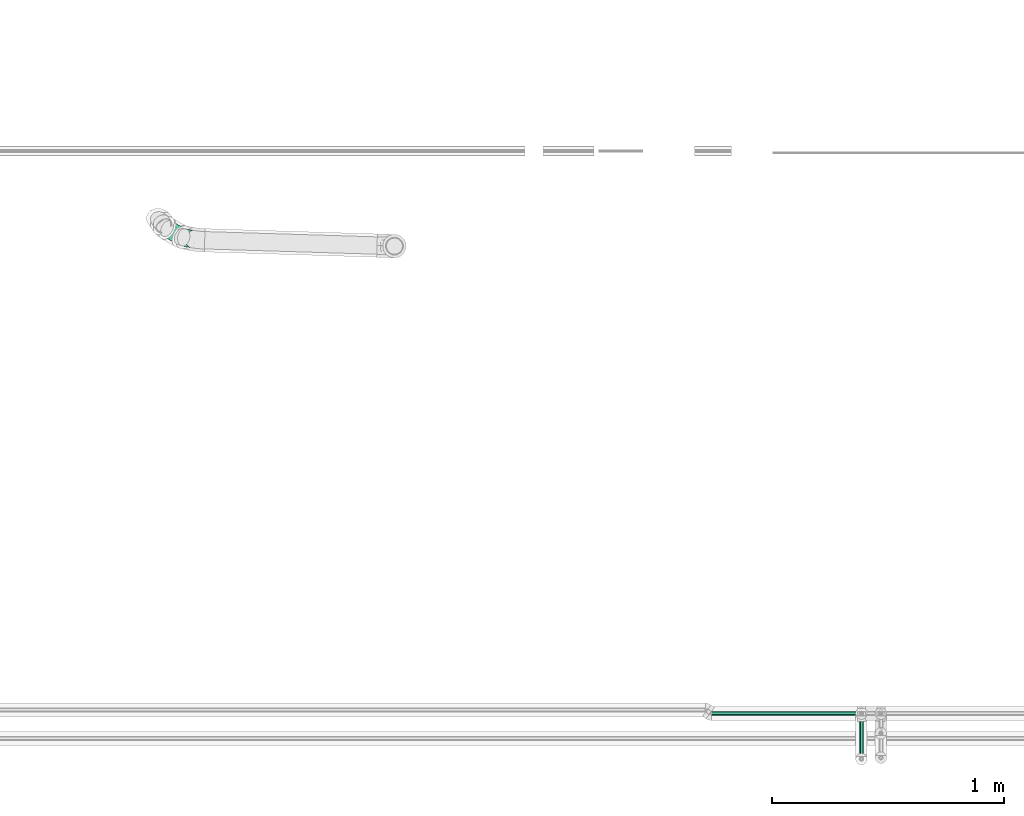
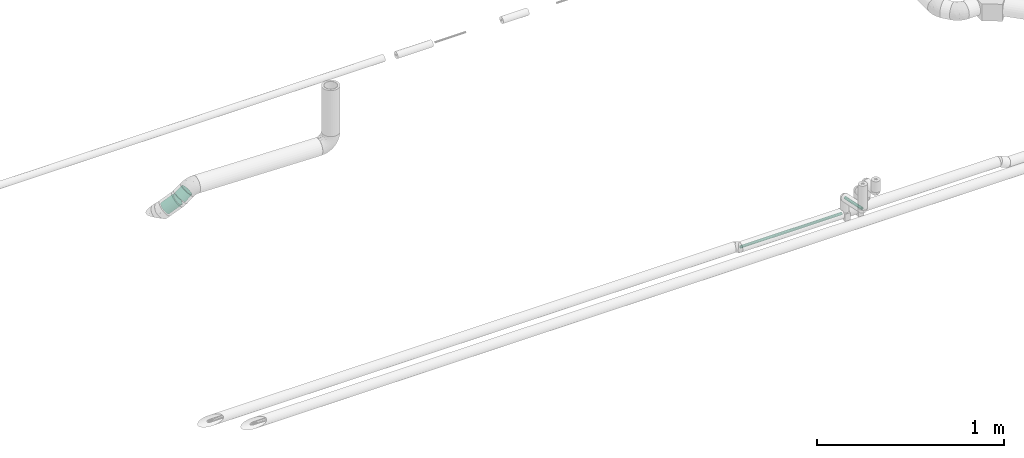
# One storey, part 69 of 156: 4 flow segments.
"""IFC2X3 building model written with IfcOpenShell, lengths in millimetres."""

from ifc_helpers import new_model, entity, si_unit, converted_unit, derived_unit, direction, frame, origin_with_axes, origin_2d_with_axis, place, context, subcontext, project, spatial, hollow_circle, extrude, source, transform, mapped, type_object, element, save


model = new_model("IFC2X3")

# Units and contexts
model_context = context("Model", 3, precision=0.01, world=frame((0.0, 4.29681676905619e-09, 0.0)), true_north=direction((4.01073788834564e-13, 1.0)))
plan_context = context("Plan", 3, precision=0.01, world=frame((0.0, 4.29681676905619e-09, 0.0)), true_north=direction((4.01073788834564e-13, 1.0)))
body_context = subcontext(model_context, "Body", "Model", "MODEL_VIEW")
ifc_project = project(units=[converted_unit("PLANEANGLEUNIT", "DEGREE", entity("IfcPositiveLengthMeasure", 0.0174532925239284), si_unit("PLANEANGLEUNIT", "RADIAN"), dimensions=[0, 0, 0, 0, 0, 0, 0]), si_unit("AREAUNIT", "SQUARE_METRE"), si_unit("LENGTHUNIT", "METRE", prefix="MILLI"), si_unit("MASSUNIT", "GRAM", prefix="KILO"), si_unit("POWERUNIT", "WATT"), si_unit("PRESSUREUNIT", "PASCAL", prefix="KILO"), si_unit("FORCEUNIT", "NEWTON", prefix="KILO"), si_unit("ELECTRICVOLTAGEUNIT", "VOLT"), si_unit("ELECTRICCURRENTUNIT", "AMPERE"), si_unit("THERMODYNAMICTEMPERATUREUNIT", "DEGREE_CELSIUS"), si_unit("TIMEUNIT", "SECOND"), si_unit("VOLUMEUNIT", "CUBIC_METRE"), derived_unit("LINEARVELOCITYUNIT", [(si_unit("LENGTHUNIT", "METRE"), 1), (si_unit("TIMEUNIT", "SECOND"), -1)]), derived_unit("VOLUMETRICFLOWRATEUNIT", [(si_unit("VOLUMEUNIT", "CUBIC_METRE"), 1), (si_unit("TIMEUNIT", "SECOND"), -1)]), derived_unit("THERMALTRANSMITTANCEUNIT", [(si_unit("POWERUNIT", "WATT"), 1), (si_unit("THERMODYNAMICTEMPERATUREUNIT", "KELVIN"), -1), (si_unit("AREAUNIT", "SQUARE_METRE"), -1)]), derived_unit("SOUNDPRESSUREUNIT", [(si_unit("PRESSUREUNIT", "PASCAL"), 1)])], contexts=[model_context, plan_context])

# Site, building, storey
site_placement = place(None, frame((0.0, -4.29681676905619e-09, 0.0), z_axis=(0.0, 0.0, 1.0), x_axis=(1.0, 0.0, 0.0)))
site = spatial("IfcSite", under=ifc_project, at=site_placement, CompositionType="ELEMENT")
building_placement = place(site_placement, frame((0.0, 4.29681676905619e-09, 0.0), z_axis=(0.0, 0.0, 1.0), x_axis=(1.0, 0.0, 0.0)))
building = spatial("IfcBuilding", under=site, at=building_placement, Name="mc-building", CompositionType="ELEMENT")
storey_placement = place(building_placement, frame((0.0, 0.0, 205200.0), z_axis=(0.0, 0.0, 1.0), x_axis=(1.0, 0.0, 0.0)))
storey = spatial("IfcBuildingStorey", under=building, at=storey_placement, Name="Nivå D + 1,2 m", CompositionType="ELEMENT", Elevation=205200.0)

# Flow segments
pipe_segment_type_1 = type_object("IfcPipeSegmentType", Name="MA", PredefinedType="RIGIDSEGMENT")
shared_shape_1 = source(origin_with_axes(), body_context, "Body", "SweptSolid", [
    extrude(hollow_circle(Radius=37.5, WallThickness=2.0, at=origin_2d_with_axis()), frame((0.0, 0.0, 0.0), z_axis=(1.0, 0.0, 0.0), x_axis=(0.0, 1.0, 0.0)), (0.0, 0.0, 1.0), 89.4),
])
flow_segment_1_placement = place(storey_placement, frame((333995.38592, 461091.15942, 4095.23874999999), z_axis=(-0.65798680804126, -0.705309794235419, 0.263801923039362), x_axis=(-0.660533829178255, 0.372372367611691, -0.651946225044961)))
element("IfcFlowSegment", 1, at=flow_segment_1_placement, inside=storey, type_object=pipe_segment_type_1, Name="MA", context=body_context, shape_type="MappedRepresentation", body=[
    mapped(shared_shape_1, transform((0.0, 0.0, 0.0), scale=1.0)),
])
shared_shape_2 = source(origin_with_axes(), body_context, "Body", "SweptSolid", [
    extrude(hollow_circle(Radius=37.5, WallThickness=2.0, at=origin_2d_with_axis()), frame((0.0, 0.0, 0.0), z_axis=(1.0, 0.0, 0.0), x_axis=(0.0, 1.0, 0.0)), (0.0, 0.0, 1.0), 53.2),
])
flow_segment_2_placement = place(storey_placement, frame((334045.15307, 461079.14928, 4144.92709000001), z_axis=(-0.0795270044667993, -0.990159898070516, -0.115147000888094), x_axis=(-0.700370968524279, 0.137698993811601, -0.700370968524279)))
element("IfcFlowSegment", 2, at=flow_segment_2_placement, inside=storey, type_object=pipe_segment_type_1, Name="MA", context=body_context, shape_type="MappedRepresentation", body=[
    mapped(shared_shape_2, transform((0.0, 0.0, 0.0), scale=1.0)),
])
pipe_segment_type_2 = type_object("IfcPipeSegmentType", Name="Stålrør normaltykke", PredefinedType="RIGIDSEGMENT")
shared_shape_3 = source(origin_with_axes(), body_context, "Body", "SweptSolid", [
    extrude(hollow_circle(Radius=8.6, WallThickness=2.0, at=origin_2d_with_axis()), frame((0.0, 0.0, 0.0), z_axis=(1.0, 0.0, 0.0), x_axis=(0.0, 1.0, 0.0)), (0.0, 0.0, 1.0), 627.6),
])
flow_segment_3_placement = place(storey_placement, frame((336280.83333, 459036.28638, 4228.32044000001), z_axis=(0.0, 0.0, 1.0), x_axis=(1.0, 0.0, 0.0)))
element("IfcFlowSegment", 3, at=flow_segment_3_placement, inside=storey, type_object=pipe_segment_type_2, Name="Stålrør normaltykke", context=body_context, shape_type="MappedRepresentation", body=[
    mapped(shared_shape_3, transform((0.0, 0.0, 0.0), scale=1.0)),
])
shared_shape_4 = source(origin_with_axes(), body_context, "Body", "SweptSolid", [
    extrude(hollow_circle(Radius=8.6, WallThickness=2.0, at=origin_2d_with_axis()), frame((0.0, 0.0, 0.0), z_axis=(1.0, 0.0, 0.0), x_axis=(0.0, 1.0, 0.0)), (0.0, 0.0, 1.0), 183.8),
])
flow_segment_4_placement = place(storey_placement, frame((336925.62218, 459028.36549, 4330.00408000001), z_axis=(0.0, 0.207911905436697, 0.978147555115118), x_axis=(0.0, -0.978147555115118, 0.207911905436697)))
element("IfcFlowSegment", 4, at=flow_segment_4_placement, inside=storey, type_object=pipe_segment_type_2, Name="Stålrør normaltykke", context=body_context, shape_type="MappedRepresentation", body=[
    mapped(shared_shape_4, transform((0.0, 0.0, 0.0), scale=1.0)),
])

save(model, "model.ifc")
